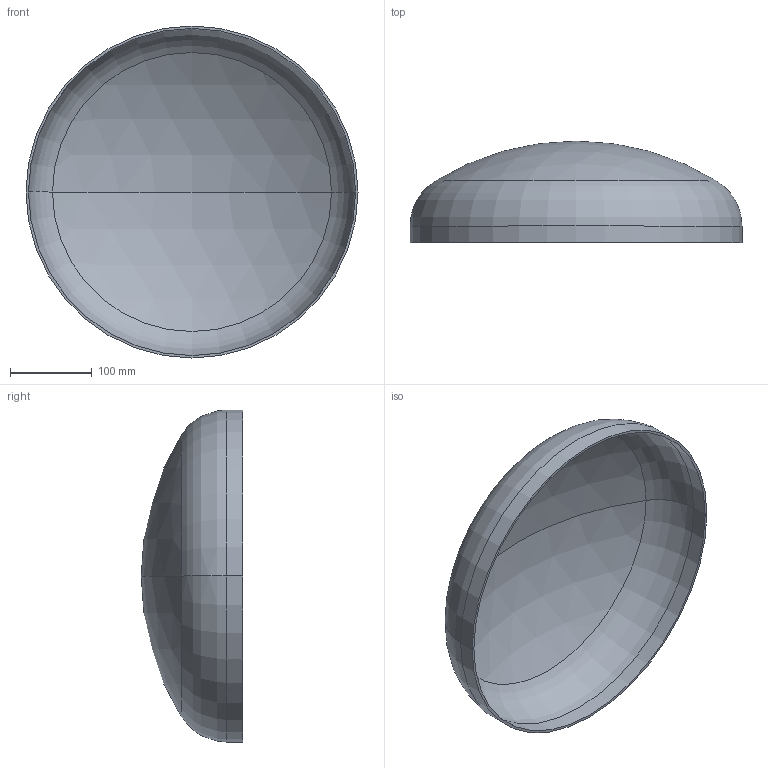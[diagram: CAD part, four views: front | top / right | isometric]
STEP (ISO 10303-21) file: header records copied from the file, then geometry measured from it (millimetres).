
FILE_DESCRIPTION (( 'STEP AP203' ), '1' );
FILE_NAME ('DIN 28013 Korbbogenform_-_Boden DIN 28013 - 406,4 x 20 - I - s=3.step', '2016-07-01T07:48:31', ( '' ), ( '' ), 'SwSTEP 2.0', 'SolidWorks 2013', '' );
FILE_SCHEMA (( 'CONFIG_CONTROL_DESIGN' ));
Length unit declared in the file: millimetre
Products named in the file (1): DIN 28013 Korbbogenform_-_Boden DIN 28013 - 406,4 x 20 - I - s=3
Bounding box: 406.4 x 124.24 x 406.4 mm (x, y, z)
Volume: 608821.7 mm3; surface area: 409701.8 mm2
Topology: 1 solids, 1 shells, 13 faces, 24 edges, 14 vertices
Faces by surface type: torus 4, cylinder 4, sphere 4, plane 1
Entity records: 407 total; most frequent: DIRECTION 72, CARTESIAN_POINT 52, ORIENTED_EDGE 48, AXIS2_PLACEMENT_3D 34, EDGE_CURVE 24, CIRCLE 20, EDGE_LOOP 14, VERTEX_POINT 14
